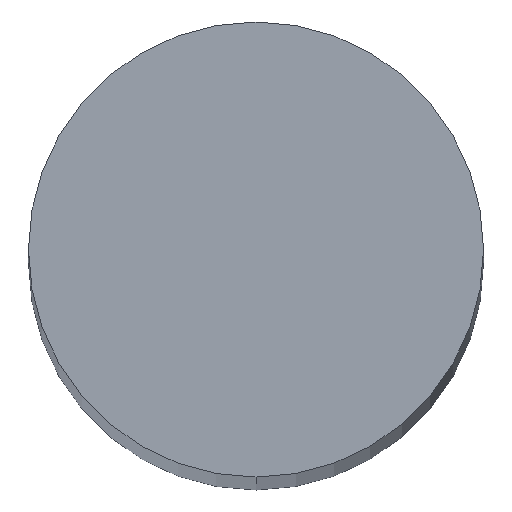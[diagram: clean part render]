
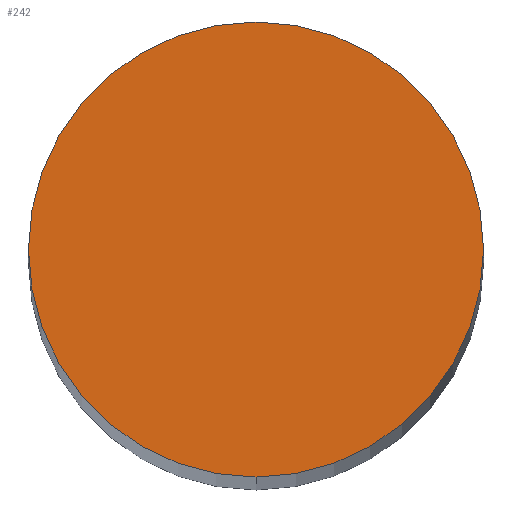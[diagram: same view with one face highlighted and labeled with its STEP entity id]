
A CAD part, top view. The second image highlights one B-rep face of the part: STEP entity #242.
In plain terms, the highlighted planar face has unit normal (0, 0, 1).
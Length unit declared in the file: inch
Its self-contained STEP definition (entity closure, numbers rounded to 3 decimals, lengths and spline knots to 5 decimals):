
#183=CARTESIAN_POINT('',(0.0,-0.0625,2.5));
#184=VERTEX_POINT('',#183);
#191=CARTESIAN_POINT('',(0.0,0.0625,2.5));
#192=VERTEX_POINT('',#191);
#193=CARTESIAN_POINT('',(0.0,0.0,2.5));
#194=DIRECTION('',(0.0,-0.0,-1.0));
#195=DIRECTION('',(0.0,1.0,-0.0));
#196=AXIS2_PLACEMENT_3D('',#193,#194,#195);
#197=CIRCLE('',#196,0.0625);
#198=EDGE_CURVE('no 1609',#184,#192,#197,.T.);
#218=CARTESIAN_POINT('',(0.0,0.0,2.5));
#219=DIRECTION('',(0.0,-0.0,-1.0));
#220=DIRECTION('',(0.0,1.0,-0.0));
#221=AXIS2_PLACEMENT_3D('',#218,#219,#220);
#222=CIRCLE('',#221,0.0625);
#223=EDGE_CURVE('no 1613',#192,#184,#222,.T.);
#233=ORIENTED_EDGE('',*,*,#198,.F.);
#234=ORIENTED_EDGE('',*,*,#223,.F.);
#235=EDGE_LOOP('',(#233,#234));
#236=FACE_OUTER_BOUND('',#235,.T.);
#237=CARTESIAN_POINT('',(0.0625,0.0,2.5));
#238=DIRECTION('',(0.0,0.0,1.0));
#239=DIRECTION('',(0.0,-1.0,0.0));
#240=AXIS2_PLACEMENT_3D('',#237,#238,#239);
#241=PLANE('',#240);
#242=ADVANCED_FACE('no 1737',(#236),#241,.T.);
